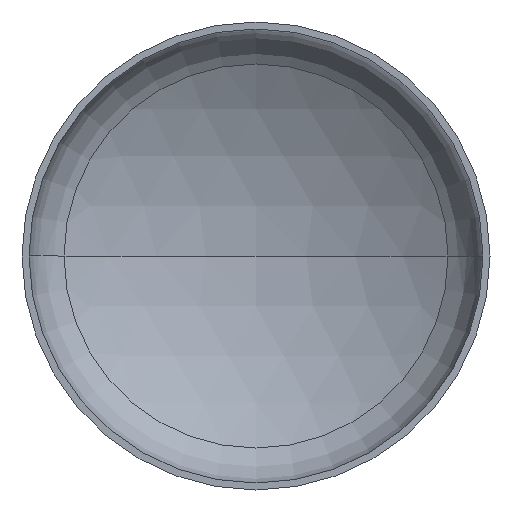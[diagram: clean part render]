
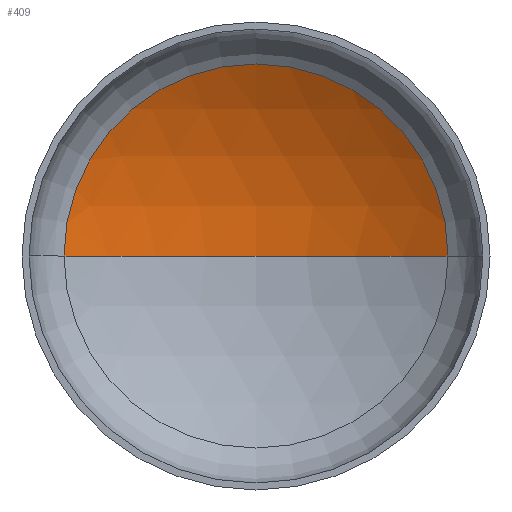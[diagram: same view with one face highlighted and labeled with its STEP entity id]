
A CAD part, front view. The second image highlights one B-rep face of the part: STEP entity #409.
In plain terms, the highlighted spherical face has radius 2400 mm.
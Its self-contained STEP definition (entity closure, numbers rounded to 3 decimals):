
#6 = AXIS2_PLACEMENT_3D ( 'NONE', #97, #117, #305 ) ;
#26 = AXIS2_PLACEMENT_3D ( 'NONE', #389, #168, #155 ) ;
#29 = AXIS2_PLACEMENT_3D ( 'NONE', #280, #114, #400 ) ;
#41 = EDGE_LOOP ( 'NONE', ( #149, #121, #73 ) ) ;
#50 = CIRCLE ( 'NONE', #6, 2400. ) ;
#67 = VERTEX_POINT ( 'NONE', #285 ) ;
#73 = ORIENTED_EDGE ( 'NONE', *, *, #349, .T. ) ;
#97 = CARTESIAN_POINT ( 'NONE',  ( 0., -1525.405, 0. ) ) ;
#98 = VERTEX_POINT ( 'NONE', #199 ) ;
#107 = CIRCLE ( 'NONE', #26, 2400. ) ;
#114 = DIRECTION ( 'NONE',  ( 0., -1., 0. ) ) ;
#117 = DIRECTION ( 'NONE',  ( 0., 0., 1. ) ) ;
#121 = ORIENTED_EDGE ( 'NONE', *, *, #354, .T. ) ;
#145 = VERTEX_POINT ( 'NONE', #255 ) ;
#149 = ORIENTED_EDGE ( 'NONE', *, *, #395, .F. ) ;
#155 = DIRECTION ( 'NONE',  ( -1., 0., 0. ) ) ;
#159 = CARTESIAN_POINT ( 'NONE',  ( 0., -1525.405, 0. ) ) ;
#168 = DIRECTION ( 'NONE',  ( 0., 0., -1. ) ) ;
#176 = SPHERICAL_SURFACE ( 'NONE', #215, 2400. ) ;
#179 = FACE_OUTER_BOUND ( 'NONE', #41, .T. ) ;
#199 = CARTESIAN_POINT ( 'NONE',  ( -1230.928, 534.89, 0. ) ) ;
#215 = AXIS2_PLACEMENT_3D ( 'NONE', #159, #283, #281 ) ;
#255 = CARTESIAN_POINT ( 'NONE',  ( 0., 874.595, 0. ) ) ;
#261 = CIRCLE ( 'NONE', #29, 1230.928 ) ;
#280 = CARTESIAN_POINT ( 'NONE',  ( 0., 534.89, 0. ) ) ;
#281 = DIRECTION ( 'NONE',  ( -1., 0., 0. ) ) ;
#283 = DIRECTION ( 'NONE',  ( 0., 0., -1. ) ) ;
#285 = CARTESIAN_POINT ( 'NONE',  ( 1230.928, 534.89, 0. ) ) ;
#305 = DIRECTION ( 'NONE',  ( 1., 0., 0. ) ) ;
#349 = EDGE_CURVE ( 'NONE', #67, #98, #261, .T. ) ;
#354 = EDGE_CURVE ( 'NONE', #145, #67, #107, .T. ) ;
#389 = CARTESIAN_POINT ( 'NONE',  ( 0., -1525.405, 0. ) ) ;
#395 = EDGE_CURVE ( 'NONE', #145, #98, #50, .T. ) ;
#400 = DIRECTION ( 'NONE',  ( 1., 0., 0. ) ) ;
#409 = ADVANCED_FACE ( 'NONE', ( #179 ), #176, .F. ) ;
